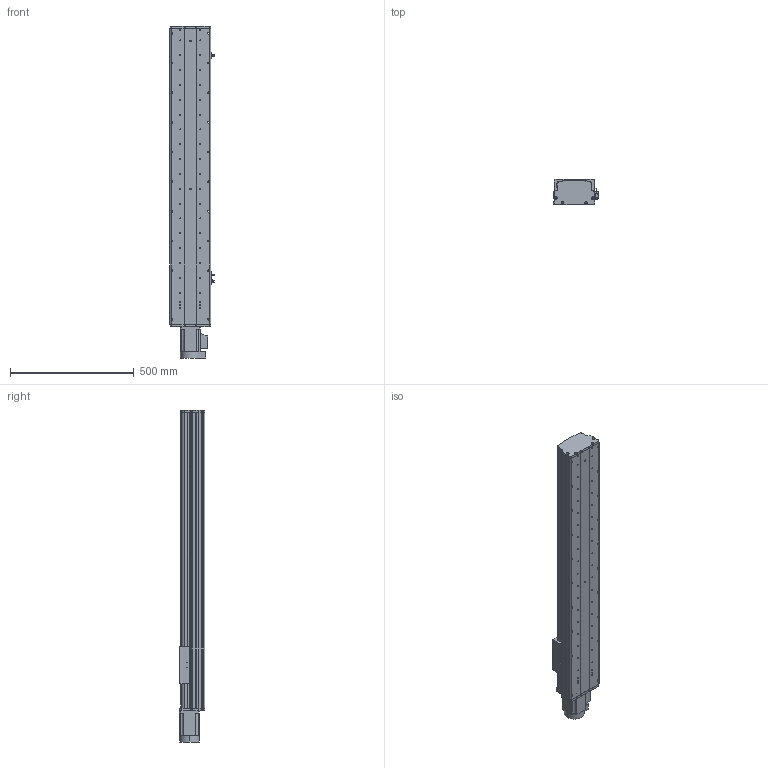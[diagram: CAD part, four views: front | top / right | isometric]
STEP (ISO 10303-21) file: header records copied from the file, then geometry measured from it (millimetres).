
FILE_DESCRIPTION (( 'STEP AP214' ), '1' );
FILE_NAME ('KSD165S-S900-MN-CM.STEP', '2017-08-07T08:18:08', ( '微软用户' ), ( '微软中国' ), 'SwSTEP 2.0', 'SolidWorks 2014', '' );
FILE_SCHEMA (( 'AUTOMOTIVE_DESIGN' ));
Length unit declared in the file: millimetre
Products named in the file (12): KSD165模组-防尘盖1-900行程-直连不带电机座; KSD165模组底板-900行程-直连不带电机座; 拸秶雄ん750W侜督萇儂; KSD165模组-直连不带电机座电机连接板; KSD165耀郪-佪裝-滅袉菜-3 -; C44ㄜ1912WP; 覜茼え68遵圉猾敕; U倰嫖萇假蚾璃; U倰嫖萇EEㄜSX672; KSD165耀郪-綴傷啣1; KSD165模组-丝杆滑动座-最新版; KSD165S-S900-MN-CM
Assembly tree (15 placements, depth 2):
  KSD165S-S900-MN-CM
    KSD165模组-丝杆滑动座-最新版
    KSD165耀郪-綴傷啣1
    U倰嫖萇EEㄜSX672  x3
    U倰嫖萇假蚾璃  x3
    覜茼え68遵圉猾敕
    C44ㄜ1912WP
    KSD165耀郪-佪裝-滅袉菜-3 -
    KSD165模组-直连不带电机座电机连接板
    拸秶雄ん750W侜督萇儂
    KSD165模组底板-900行程-直连不带电机座
    KSD165模组-防尘盖1-900行程-直连不带电机座
Bounding box: 178.7 x 104 x 1343 mm (x, y, z)
Volume: 7417856.4 mm3; surface area: 1642905.2 mm2
Topology: 16 solids, 16 shells, 1241 faces, 3478 edges, 2257 vertices
Faces by surface type: cylinder 667, plane 497, cone 77
Entity records: 39487 total; most frequent: CARTESIAN_POINT 8799, DIRECTION 5863, ORIENTED_EDGE 5636, EDGE_CURVE 2818, AXIS2_PLACEMENT_3D 2209, VERTEX_POINT 1849, LINE 1445, VECTOR 1445
